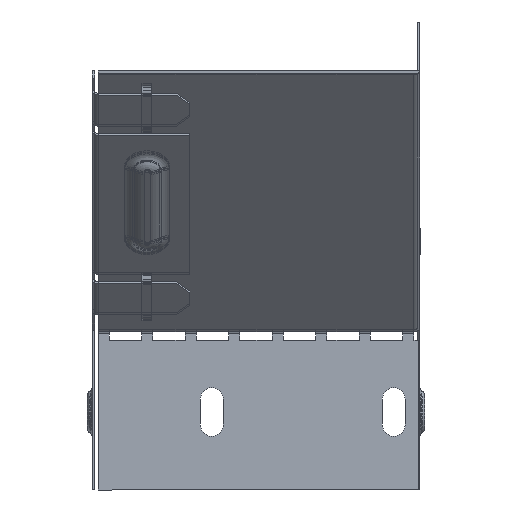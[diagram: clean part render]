
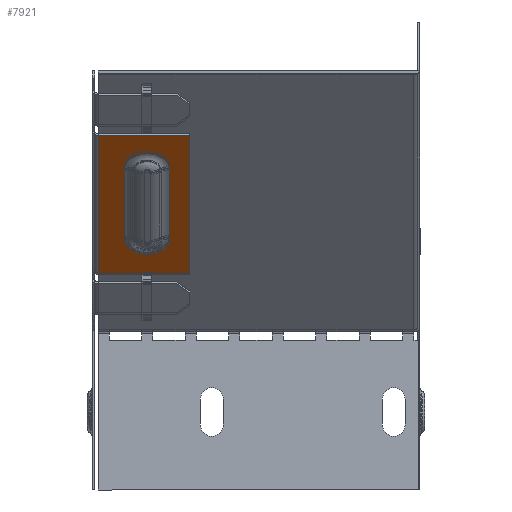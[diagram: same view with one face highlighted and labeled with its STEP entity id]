
A CAD part, left-side view. The second image highlights one B-rep face of the part: STEP entity #7921.
In plain terms, the highlighted planar face has unit normal (-0.707, 0, -0.707).
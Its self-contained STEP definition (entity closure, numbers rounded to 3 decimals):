
#422 = VECTOR ( 'NONE', #11551, 1000. ) ;
#509 = CIRCLE ( 'NONE', #9136, 6.917 ) ;
#647 = EDGE_CURVE ( 'NONE', #5450, #12129, #9645, .T. ) ;
#733 = DIRECTION ( 'NONE',  ( -0.707, 0., 0.707 ) ) ;
#1028 = CARTESIAN_POINT ( 'NONE',  ( -261.823, 70., -34.855 ) ) ;
#1048 = AXIS2_PLACEMENT_3D ( 'NONE', #18058, #16371, #12636 ) ;
#1173 = ORIENTED_EDGE ( 'NONE', *, *, #24066, .T. ) ;
#1830 = VERTEX_POINT ( 'NONE', #9354 ) ;
#2210 = VERTEX_POINT ( 'NONE', #8425 ) ;
#2457 = CARTESIAN_POINT ( 'NONE',  ( -251.206, 83.1, -45.472 ) ) ;
#2617 = AXIS2_PLACEMENT_3D ( 'NONE', #19108, #22841, #11835 ) ;
#2792 = VERTEX_POINT ( 'NONE', #5479 ) ;
#2953 = CARTESIAN_POINT ( 'NONE',  ( -229.993, 90.017, -66.685 ) ) ;
#4336 = DIRECTION ( 'NONE',  ( 0.707, 0., 0.707 ) ) ;
#4857 = LINE ( 'NONE', #12090, #20580 ) ;
#5450 = VERTEX_POINT ( 'NONE', #16657 ) ;
#5479 = CARTESIAN_POINT ( 'NONE',  ( -229.993, 90.017, -66.685 ) ) ;
#5557 = CIRCLE ( 'NONE', #1048, 6.917 ) ;
#5892 = EDGE_CURVE ( 'NONE', #16602, #1830, #23451, .T. ) ;
#6101 = VERTEX_POINT ( 'NONE', #10644 ) ;
#7740 = DIRECTION ( 'NONE',  ( 0.707, 0., -0.707 ) ) ;
#7832 = EDGE_CURVE ( 'NONE', #16602, #2210, #16742, .T. ) ;
#7921 = ADVANCED_FACE ( 'NONE', ( #10347, #19934 ), #15448, .F. ) ;
#8142 = CARTESIAN_POINT ( 'NONE',  ( -219.022, 70., -77.656 ) ) ;
#8151 = CARTESIAN_POINT ( 'NONE',  ( -278.087, 98.2, -18.591 ) ) ;
#8246 = DIRECTION ( 'NONE',  ( -0.707, 0., 0.707 ) ) ;
#8425 = CARTESIAN_POINT ( 'NONE',  ( -261.823, 98.2, -34.855 ) ) ;
#8557 = LINE ( 'NONE', #2953, #10889 ) ;
#9136 = AXIS2_PLACEMENT_3D ( 'NONE', #2457, #4336, #9728 ) ;
#9354 = CARTESIAN_POINT ( 'NONE',  ( -219.022, 70., -77.656 ) ) ;
#9539 = CARTESIAN_POINT ( 'NONE',  ( -261.823, 70., -34.855 ) ) ;
#9645 = LINE ( 'NONE', #11629, #23844 ) ;
#9728 = DIRECTION ( 'NONE',  ( 0.5, -0.707, -0.5 ) ) ;
#9882 = ORIENTED_EDGE ( 'NONE', *, *, #21119, .T. ) ;
#10021 = DIRECTION ( 'NONE',  ( 0., -1., 0. ) ) ;
#10347 = FACE_BOUND ( 'NONE', #20027, .T. ) ;
#10644 = CARTESIAN_POINT ( 'NONE',  ( -251.206, 90.017, -45.472 ) ) ;
#10889 = VECTOR ( 'NONE', #8246, 1000. ) ;
#11551 = DIRECTION ( 'NONE',  ( 0., 1., 0. ) ) ;
#11629 = CARTESIAN_POINT ( 'NONE',  ( -229.993, 76.183, -66.685 ) ) ;
#11807 = VECTOR ( 'NONE', #733, 1000. ) ;
#11835 = DIRECTION ( 'NONE',  ( 0.707, 0., -0.707 ) ) ;
#12090 = CARTESIAN_POINT ( 'NONE',  ( -140.837, 70., -155.841 ) ) ;
#12129 = VERTEX_POINT ( 'NONE', #12590 ) ;
#12590 = CARTESIAN_POINT ( 'NONE',  ( -229.993, 76.183, -66.685 ) ) ;
#12636 = DIRECTION ( 'NONE',  ( 0.5, -0.707, -0.5 ) ) ;
#13325 = CARTESIAN_POINT ( 'NONE',  ( -219.022, 98.2, -77.656 ) ) ;
#13890 = ORIENTED_EDGE ( 'NONE', *, *, #20476, .T. ) ;
#14262 = EDGE_CURVE ( 'NONE', #21146, #2210, #15270, .T. ) ;
#14754 = ORIENTED_EDGE ( 'NONE', *, *, #7832, .F. ) ;
#15270 = LINE ( 'NONE', #9539, #422 ) ;
#15448 = PLANE ( 'NONE',  #2617 ) ;
#15722 = ORIENTED_EDGE ( 'NONE', *, *, #18474, .T. ) ;
#15829 = DIRECTION ( 'NONE',  ( -0.707, 0., 0.707 ) ) ;
#16239 = ORIENTED_EDGE ( 'NONE', *, *, #14262, .T. ) ;
#16371 = DIRECTION ( 'NONE',  ( 0.707, 0., 0.707 ) ) ;
#16602 = VERTEX_POINT ( 'NONE', #13325 ) ;
#16657 = CARTESIAN_POINT ( 'NONE',  ( -251.206, 76.183, -45.472 ) ) ;
#16742 = LINE ( 'NONE', #8151, #11807 ) ;
#16776 = VECTOR ( 'NONE', #10021, 1000. ) ;
#16838 = EDGE_LOOP ( 'NONE', ( #14754, #22266, #9882, #16239 ) ) ;
#18058 = CARTESIAN_POINT ( 'NONE',  ( -229.993, 83.1, -66.685 ) ) ;
#18474 = EDGE_CURVE ( 'NONE', #2792, #6101, #8557, .T. ) ;
#19102 = ORIENTED_EDGE ( 'NONE', *, *, #647, .T. ) ;
#19108 = CARTESIAN_POINT ( 'NONE',  ( -140.837, 100., -155.841 ) ) ;
#19934 = FACE_OUTER_BOUND ( 'NONE', #16838, .T. ) ;
#20027 = EDGE_LOOP ( 'NONE', ( #19102, #1173, #15722, #13890 ) ) ;
#20476 = EDGE_CURVE ( 'NONE', #6101, #5450, #509, .T. ) ;
#20580 = VECTOR ( 'NONE', #15829, 1000. ) ;
#21119 = EDGE_CURVE ( 'NONE', #1830, #21146, #4857, .T. ) ;
#21146 = VERTEX_POINT ( 'NONE', #1028 ) ;
#22266 = ORIENTED_EDGE ( 'NONE', *, *, #5892, .T. ) ;
#22841 = DIRECTION ( 'NONE',  ( 0.707, 0., 0.707 ) ) ;
#23451 = LINE ( 'NONE', #8142, #16776 ) ;
#23844 = VECTOR ( 'NONE', #7740, 1000. ) ;
#24066 = EDGE_CURVE ( 'NONE', #12129, #2792, #5557, .T. ) ;
